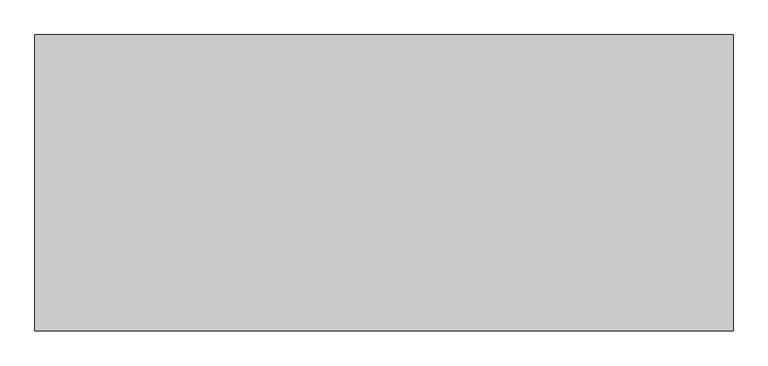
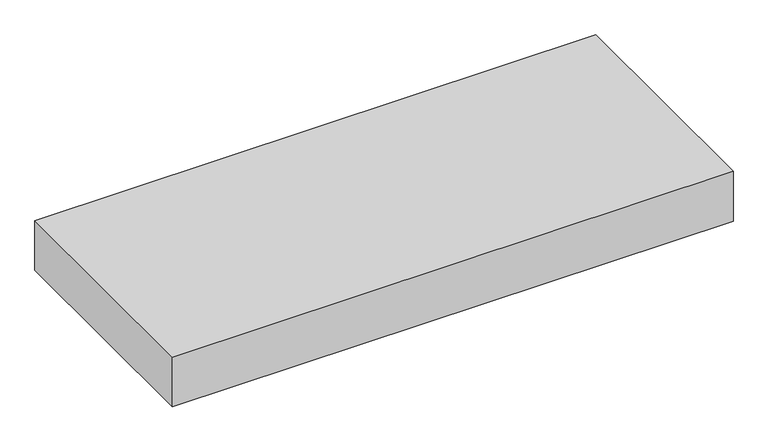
"""IFC4 building model written with IfcOpenShell, lengths in millimetres: proxy geometry, 機械基礎(電気) : 機械基礎(電気)."""

from ifc_helpers import new_model, si_unit, origin, origin_with_axes, place, context, project, spatial, polyline, outline, extrude, source, transform, mapped, element, save


def specialty_equipment_376b6c60(model_context):
    return source(origin(), model_context, "Body", "SweptSolid", [
        extrude(outline(polyline([(1600.0, -679.0), (-1600.0, -679.0), (-1600.0, 679.0), (1600.0, 679.0), (1600.0, -679.0)])), origin_with_axes(), (0.0, 0.0, 1.0), 300.0),
    ])


if __name__ == "__main__":
    model = new_model("IFC4")
    model_context = context("Model", 3, world=origin())
    ifc_project = project(units=[si_unit("LENGTHUNIT", "METRE", prefix="MILLI")], contexts=[model_context])
    site = spatial("IfcSite", under=ifc_project)
    building = spatial("IfcBuilding", under=site)
    placement = place(None, origin())
    specialty_equipment_shape = specialty_equipment_376b6c60(model_context)
    element("IfcBuildingElementProxy", 1, Name="機械基礎(電気) : 機械基礎(電気)", ObjectType="機械基礎(電気) : 機械基礎(電気)", at=placement, inside=building, context=model_context, shape_type="MappedRepresentation", body=[
        mapped(specialty_equipment_shape, transform((0.0, 0.0, 0.0), x_axis=(1.0, 0.0, 0.0), y_axis=(0.0, 1.0, 0.0), z_axis=(0.0, 0.0, 1.0))),
    ])
    save(model, "model.ifc")
